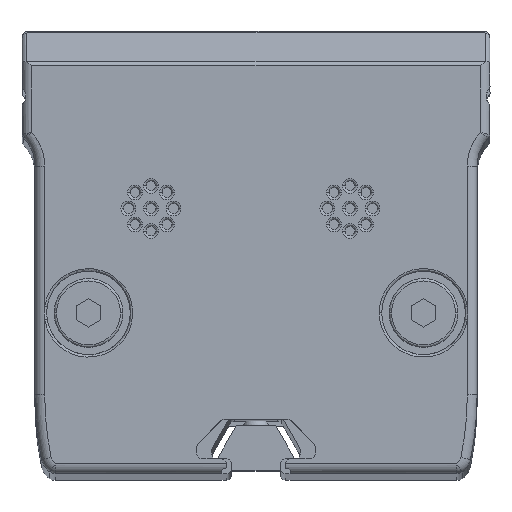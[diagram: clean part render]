
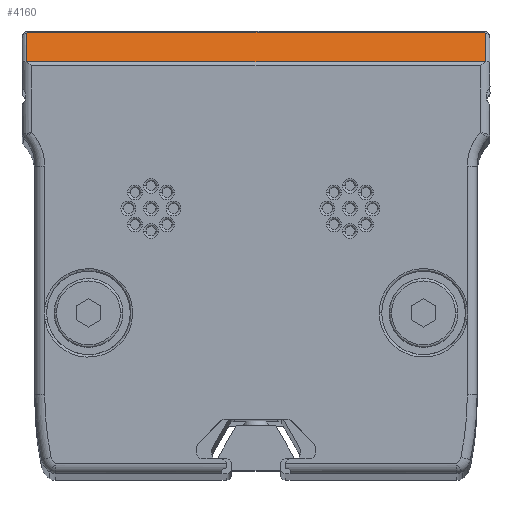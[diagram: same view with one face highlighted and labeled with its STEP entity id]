
A CAD part, top view. The second image highlights one B-rep face of the part: STEP entity #4160.
In plain terms, the highlighted planar face has unit normal (0, 0.858, 0.514).
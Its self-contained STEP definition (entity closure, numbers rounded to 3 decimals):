
#1739 = DIRECTION ( 'NONE',  ( 0., 0.514, -0.857 ) ) ;
#2019 = CARTESIAN_POINT ( 'NONE',  ( -23.315, 22.387, 379.983 ) ) ;
#2086 = DIRECTION ( 'NONE',  ( 1., 0., 0. ) ) ;
#2518 = VERTEX_POINT ( 'NONE', #25394 ) ;
#2811 = DIRECTION ( 'NONE',  ( 0., -0.857, -0.514 ) ) ;
#4160 = ADVANCED_FACE ( 'NONE', ( #11501 ), #25151, .F. ) ;
#4361 = VERTEX_POINT ( 'NONE', #27144 ) ;
#4825 = CARTESIAN_POINT ( 'NONE',  ( -23.215, 22.429, 379.914 ) ) ;
#5304 = EDGE_CURVE ( 'NONE', #15220, #6323, #12380, .T. ) ;
#5638 = EDGE_CURVE ( 'NONE', #18489, #2518, #25490, .T. ) ;
#6012 = LINE ( 'NONE', #10576, #26653 ) ;
#6323 = VERTEX_POINT ( 'NONE', #28626 ) ;
#6696 = ORIENTED_EDGE ( 'NONE', *, *, #5638, .T. ) ;
#7337 =( BOUNDED_CURVE ( )  B_SPLINE_CURVE ( 3, ( #19026, #7655, #7371, #10148 ),
 .UNSPECIFIED., .F., .F. ) 
 B_SPLINE_CURVE_WITH_KNOTS ( ( 4, 4 ),
 ( 4.712, 6.283 ),
 .UNSPECIFIED. ) 
 CURVE ( )  GEOMETRIC_REPRESENTATION_ITEM ( )  RATIONAL_B_SPLINE_CURVE ( ( 1., 0.805, 0.805, 1. ) ) 
 REPRESENTATION_ITEM ( '' )  );
#7371 = CARTESIAN_POINT ( 'NONE',  ( 23.274, 22.429, 379.914 ) ) ;
#7653 = AXIS2_PLACEMENT_3D ( 'NONE', #11779, #2811, #25289 ) ;
#7655 = CARTESIAN_POINT ( 'NONE',  ( 23.315, 22.387, 379.983 ) ) ;
#8003 = VECTOR ( 'NONE', #17551, 1000. ) ;
#8711 = ORIENTED_EDGE ( 'NONE', *, *, #14199, .T. ) ;
#9510 = ORIENTED_EDGE ( 'NONE', *, *, #5304, .T. ) ;
#10148 = CARTESIAN_POINT ( 'NONE',  ( 23.215, 22.429, 379.914 ) ) ;
#10472 = VECTOR ( 'NONE', #2086, 1000. ) ;
#10569 = CARTESIAN_POINT ( 'NONE',  ( -23.315, 22.329, 380.08 ) ) ;
#10576 = CARTESIAN_POINT ( 'NONE',  ( 23.315, 19.287, 385.15 ) ) ;
#11501 = FACE_OUTER_BOUND ( 'NONE', #22246, .T. ) ;
#11611 = EDGE_CURVE ( 'NONE', #2518, #15220, #29009, .T. ) ;
#11779 = CARTESIAN_POINT ( 'NONE',  ( 23.82, 19.287, 385.15 ) ) ;
#11952 = CARTESIAN_POINT ( 'NONE',  ( 23.215, 22.429, 379.914 ) ) ;
#12380 =( BOUNDED_CURVE ( )  B_SPLINE_CURVE ( 3, ( #28967, #12909, #2019, #10569 ),
 .UNSPECIFIED., .F., .F. ) 
 B_SPLINE_CURVE_WITH_KNOTS ( ( 4, 4 ),
 ( 0., 1.571 ),
 .UNSPECIFIED. ) 
 CURVE ( )  GEOMETRIC_REPRESENTATION_ITEM ( )  RATIONAL_B_SPLINE_CURVE ( ( 1., 0.805, 0.805, 1. ) ) 
 REPRESENTATION_ITEM ( '' )  );
#12489 = ORIENTED_EDGE ( 'NONE', *, *, #16710, .T. ) ;
#12909 = CARTESIAN_POINT ( 'NONE',  ( -23.274, 22.429, 379.914 ) ) ;
#12928 = VERTEX_POINT ( 'NONE', #20451 ) ;
#12949 = LINE ( 'NONE', #17113, #8003 ) ;
#13387 = DIRECTION ( 'NONE',  ( -1., 0., 0. ) ) ;
#13886 = CARTESIAN_POINT ( 'NONE',  ( 23.215, 22.429, 379.914 ) ) ;
#14199 = EDGE_CURVE ( 'NONE', #12928, #18489, #7337, .T. ) ;
#14597 = ORIENTED_EDGE ( 'NONE', *, *, #28885, .T. ) ;
#15105 = ORIENTED_EDGE ( 'NONE', *, *, #19956, .T. ) ;
#15220 = VERTEX_POINT ( 'NONE', #4825 ) ;
#16330 = CARTESIAN_POINT ( 'NONE',  ( 23.215, 22.429, 379.914 ) ) ;
#16710 = EDGE_CURVE ( 'NONE', #6323, #23818, #12949, .T. ) ;
#17113 = CARTESIAN_POINT ( 'NONE',  ( -23.315, 19.287, 385.15 ) ) ;
#17551 = DIRECTION ( 'NONE',  ( 0., -0.514, 0.857 ) ) ;
#17839 = CARTESIAN_POINT ( 'NONE',  ( -23.215, 22.429, 379.914 ) ) ;
#18489 = VERTEX_POINT ( 'NONE', #16330 ) ;
#18776 = CARTESIAN_POINT ( 'NONE',  ( 23.215, 22.429, 379.914 ) ) ;
#19026 = CARTESIAN_POINT ( 'NONE',  ( 23.315, 22.329, 380.08 ) ) ;
#19956 = EDGE_CURVE ( 'NONE', #4361, #12928, #6012, .T. ) ;
#20451 = CARTESIAN_POINT ( 'NONE',  ( 23.315, 22.329, 380.08 ) ) ;
#20516 = ORIENTED_EDGE ( 'NONE', *, *, #11611, .T. ) ;
#22246 = EDGE_LOOP ( 'NONE', ( #14597, #15105, #8711, #6696, #20516, #9510, #12489 ) ) ;
#23818 = VERTEX_POINT ( 'NONE', #27751 ) ;
#25151 = PLANE ( 'NONE',  #7653 ) ;
#25289 = DIRECTION ( 'NONE',  ( 0., 0.514, -0.857 ) ) ;
#25394 = CARTESIAN_POINT ( 'NONE',  ( 23.215, 22.429, 379.914 ) ) ;
#25490 =( BOUNDED_CURVE ( )  B_SPLINE_CURVE ( 3, ( #11952, #18776, #27705, #13886 ),
 .UNSPECIFIED., .F., .F. ) 
 B_SPLINE_CURVE_WITH_KNOTS ( ( 4, 4 ),
 ( 6.283, 6.283 ),
 .UNSPECIFIED. ) 
 CURVE ( )  GEOMETRIC_REPRESENTATION_ITEM ( )  RATIONAL_B_SPLINE_CURVE ( ( 1., 1., 1., 1. ) ) 
 REPRESENTATION_ITEM ( '' )  );
#25834 = VECTOR ( 'NONE', #13387, 1000. ) ;
#26653 = VECTOR ( 'NONE', #1739, 1000. ) ;
#26656 = LINE ( 'NONE', #27097, #10472 ) ;
#27097 = CARTESIAN_POINT ( 'NONE',  ( 23.82, 19.433, 384.907 ) ) ;
#27144 = CARTESIAN_POINT ( 'NONE',  ( 23.315, 19.433, 384.907 ) ) ;
#27705 = CARTESIAN_POINT ( 'NONE',  ( 23.215, 22.429, 379.914 ) ) ;
#27751 = CARTESIAN_POINT ( 'NONE',  ( -23.315, 19.433, 384.907 ) ) ;
#28626 = CARTESIAN_POINT ( 'NONE',  ( -23.315, 22.329, 380.08 ) ) ;
#28885 = EDGE_CURVE ( 'NONE', #23818, #4361, #26656, .T. ) ;
#28967 = CARTESIAN_POINT ( 'NONE',  ( -23.215, 22.429, 379.914 ) ) ;
#29009 = LINE ( 'NONE', #17839, #25834 ) ;
